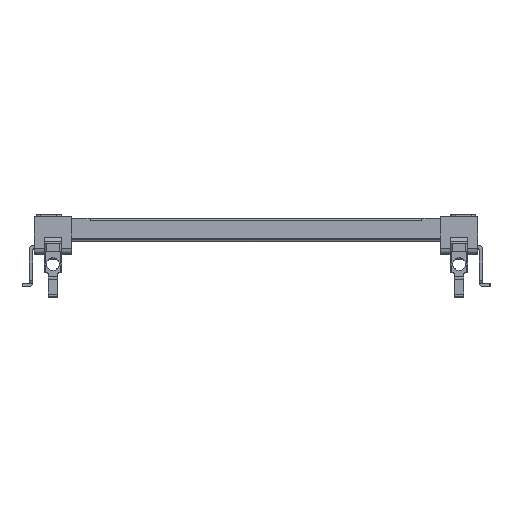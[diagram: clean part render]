
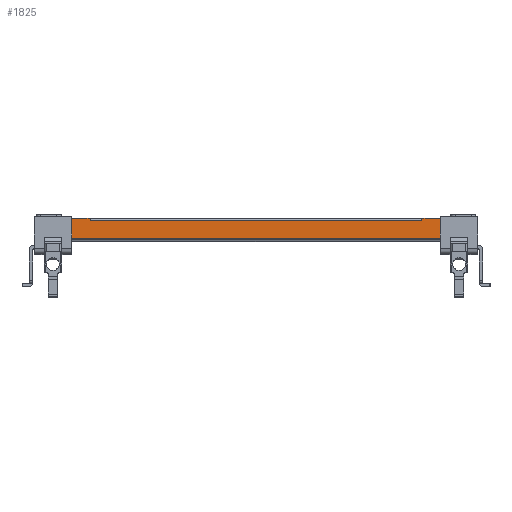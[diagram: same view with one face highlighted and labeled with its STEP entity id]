
A CAD part, front view. The second image highlights one B-rep face of the part: STEP entity #1825.
In plain terms, the highlighted planar face has unit normal (0, -1, 0).
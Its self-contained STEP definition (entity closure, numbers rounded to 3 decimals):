
#486 = ORIENTED_EDGE ( 'NONE', *, *, #2074, .F. ) ;
#683 = DIRECTION ( 'NONE',  ( 0., 0., 1. ) ) ;
#887 = CARTESIAN_POINT ( 'NONE',  ( 208., -840., 26. ) ) ;
#1036 = VERTEX_POINT ( 'NONE', #2943 ) ;
#1163 = ORIENTED_EDGE ( 'NONE', *, *, #7045, .F. ) ;
#1238 = VECTOR ( 'NONE', #5461, 1000. ) ;
#1432 = DIRECTION ( 'NONE',  ( 0., 1., 0. ) ) ;
#1475 = LINE ( 'NONE', #6925, #5481 ) ;
#1589 = LINE ( 'NONE', #7474, #8077 ) ;
#1698 = ORIENTED_EDGE ( 'NONE', *, *, #3438, .T. ) ;
#1825 = ADVANCED_FACE ( 'NONE', ( #4730 ), #9807, .F. ) ;
#2034 = DIRECTION ( 'NONE',  ( -1., 0., 0. ) ) ;
#2074 = EDGE_CURVE ( 'NONE', #1036, #8100, #3544, .T. ) ;
#2234 = CARTESIAN_POINT ( 'NONE',  ( -183., -840., 23.5 ) ) ;
#2411 = VECTOR ( 'NONE', #6651, 1000. ) ;
#2442 = CARTESIAN_POINT ( 'NONE',  ( 203.5, -840., 28. ) ) ;
#2559 = VERTEX_POINT ( 'NONE', #2876 ) ;
#2689 = LINE ( 'NONE', #2442, #2411 ) ;
#2798 = CARTESIAN_POINT ( 'NONE',  ( 208.45, -840., 3.5 ) ) ;
#2853 = LINE ( 'NONE', #2798, #6788 ) ;
#2876 = CARTESIAN_POINT ( 'NONE',  ( 203.5, -840., 3.5 ) ) ;
#2943 = CARTESIAN_POINT ( 'NONE',  ( 183., -840., 26. ) ) ;
#3205 = ORIENTED_EDGE ( 'NONE', *, *, #3660, .F. ) ;
#3292 = CARTESIAN_POINT ( 'NONE',  ( -203.5, -840., 3.5 ) ) ;
#3319 = CARTESIAN_POINT ( 'NONE',  ( 203.5, -840., 26. ) ) ;
#3438 = EDGE_CURVE ( 'NONE', #7385, #5635, #1475, .T. ) ;
#3511 = DIRECTION ( 'NONE',  ( 1., 0., 0. ) ) ;
#3544 = LINE ( 'NONE', #3813, #1238 ) ;
#3660 = EDGE_CURVE ( 'NONE', #10744, #6838, #5868, .T. ) ;
#3813 = CARTESIAN_POINT ( 'NONE',  ( 208., -840., 26. ) ) ;
#3840 = VERTEX_POINT ( 'NONE', #7577 ) ;
#3990 = DIRECTION ( 'NONE',  ( 0., 0., 1. ) ) ;
#4372 = EDGE_CURVE ( 'NONE', #2559, #8100, #2689, .T. ) ;
#4730 = FACE_OUTER_BOUND ( 'NONE', #5467, .T. ) ;
#5087 = CARTESIAN_POINT ( 'NONE',  ( -183., -840., 26. ) ) ;
#5138 = EDGE_CURVE ( 'NONE', #7385, #3840, #8188, .T. ) ;
#5312 = ORIENTED_EDGE ( 'NONE', *, *, #4372, .T. ) ;
#5367 = AXIS2_PLACEMENT_3D ( 'NONE', #6528, #1432, #7373 ) ;
#5461 = DIRECTION ( 'NONE',  ( 1., 0., 0. ) ) ;
#5467 = EDGE_LOOP ( 'NONE', ( #5565, #5312, #486, #7025, #8431, #1698, #1163, #3205 ) ) ;
#5481 = VECTOR ( 'NONE', #6076, 1000. ) ;
#5565 = ORIENTED_EDGE ( 'NONE', *, *, #8288, .F. ) ;
#5635 = VERTEX_POINT ( 'NONE', #5087 ) ;
#5868 = LINE ( 'NONE', #6304, #9753 ) ;
#6076 = DIRECTION ( 'NONE',  ( 0., 0., 1. ) ) ;
#6304 = CARTESIAN_POINT ( 'NONE',  ( -203.5, -840., 28. ) ) ;
#6528 = CARTESIAN_POINT ( 'NONE',  ( -242.5, -840., 2.5 ) ) ;
#6548 = CARTESIAN_POINT ( 'NONE',  ( -203.5, -840., 26. ) ) ;
#6651 = DIRECTION ( 'NONE',  ( 0., 0., 1. ) ) ;
#6788 = VECTOR ( 'NONE', #2034, 1000. ) ;
#6838 = VERTEX_POINT ( 'NONE', #6548 ) ;
#6925 = CARTESIAN_POINT ( 'NONE',  ( -183., -840., 26. ) ) ;
#7025 = ORIENTED_EDGE ( 'NONE', *, *, #9046, .F. ) ;
#7045 = EDGE_CURVE ( 'NONE', #6838, #5635, #9294, .T. ) ;
#7112 = VECTOR ( 'NONE', #8497, 1000. ) ;
#7373 = DIRECTION ( 'NONE',  ( 0., 0., 1. ) ) ;
#7385 = VERTEX_POINT ( 'NONE', #2234 ) ;
#7474 = CARTESIAN_POINT ( 'NONE',  ( 183., -840., 26. ) ) ;
#7577 = CARTESIAN_POINT ( 'NONE',  ( 183., -840., 23.5 ) ) ;
#8077 = VECTOR ( 'NONE', #683, 1000. ) ;
#8100 = VERTEX_POINT ( 'NONE', #3319 ) ;
#8188 = LINE ( 'NONE', #10165, #10104 ) ;
#8288 = EDGE_CURVE ( 'NONE', #2559, #10744, #2853, .T. ) ;
#8431 = ORIENTED_EDGE ( 'NONE', *, *, #5138, .F. ) ;
#8497 = DIRECTION ( 'NONE',  ( 1., 0., 0. ) ) ;
#9046 = EDGE_CURVE ( 'NONE', #3840, #1036, #1589, .T. ) ;
#9294 = LINE ( 'NONE', #887, #7112 ) ;
#9753 = VECTOR ( 'NONE', #3990, 1000. ) ;
#9807 = PLANE ( 'NONE',  #5367 ) ;
#10104 = VECTOR ( 'NONE', #3511, 1000. ) ;
#10165 = CARTESIAN_POINT ( 'NONE',  ( -183., -840., 23.5 ) ) ;
#10744 = VERTEX_POINT ( 'NONE', #3292 ) ;
